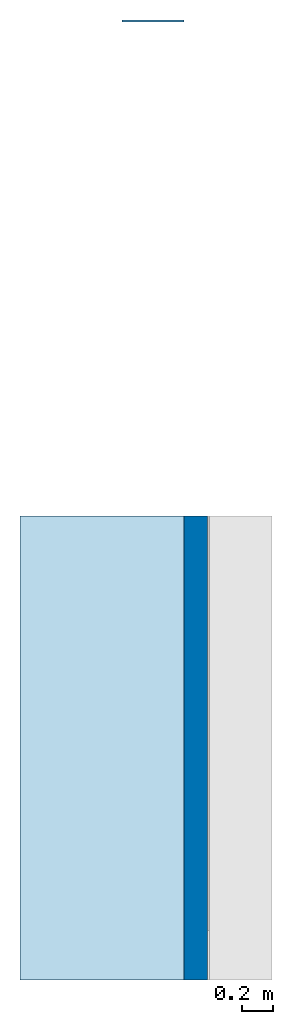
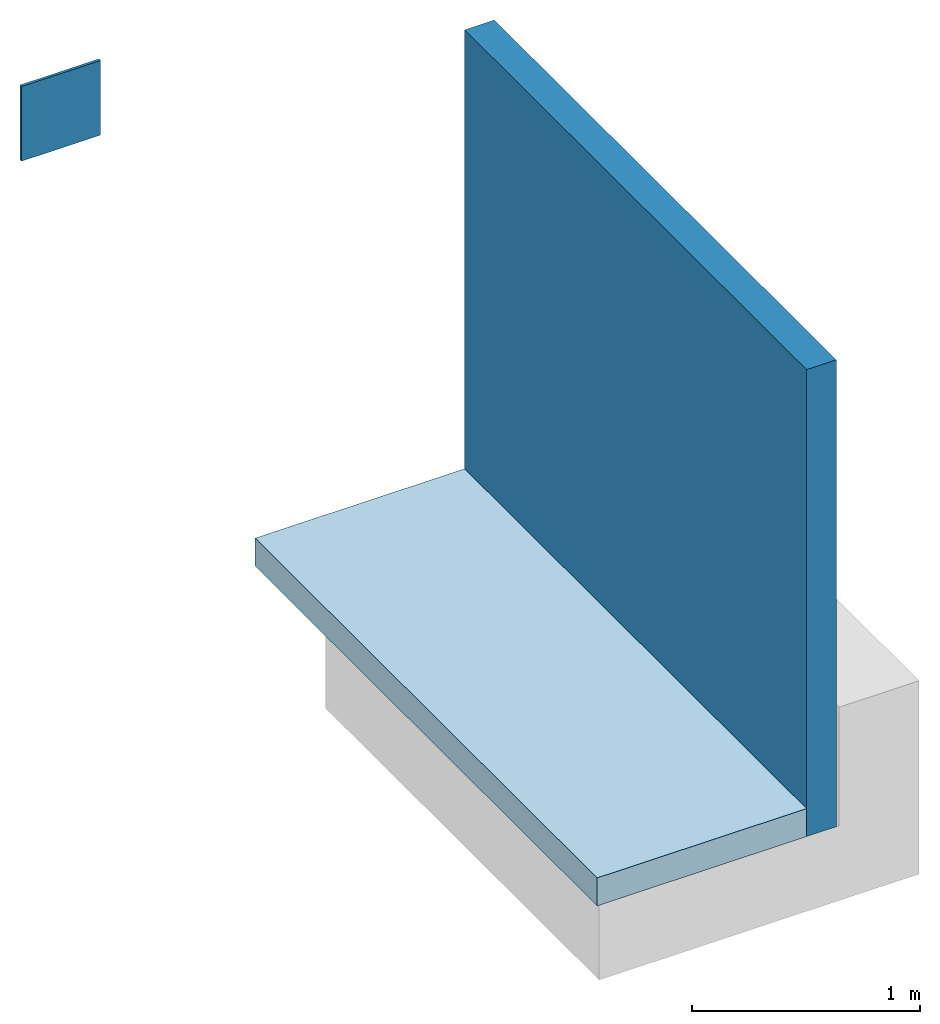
# One storey, part 1 of 2: 2 walls, 1 slab.
"""IFC2X3 building model written with IfcOpenShell, lengths in metres."""

from ifc_helpers import new_model, entity, si_unit, converted_unit, derived_unit, direction, frame, frame_2d, origin, place, context, subcontext, project, spatial, rectangle, extrude, material, layer, layer_set, layer_usage, type_object, element, save


model = new_model("IFC2X3")

# Units and contexts
model_context = context("Model", 3, precision=1e-05, world=origin(), true_north=direction((6.123031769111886e-17, 1.0)))
body_context = subcontext(model_context, "Body", "Model", "MODEL_VIEW")
ifc_project = project(units=[si_unit("LENGTHUNIT", "METRE"), si_unit("AREAUNIT", "SQUARE_METRE"), si_unit("VOLUMEUNIT", "CUBIC_METRE"), converted_unit("PLANEANGLEUNIT", "DEGREE", entity("IfcRatioMeasure", 0.017453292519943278), si_unit("PLANEANGLEUNIT", "RADIAN"), dimensions=[0, 0, 0, 0, 0, 0, 0]), si_unit("MASSUNIT", "GRAM", prefix="KILO"), derived_unit("MASSDENSITYUNIT", [(si_unit("MASSUNIT", "GRAM", prefix="KILO"), 1), (si_unit("LENGTHUNIT", "METRE"), -3)]), derived_unit("IONCONCENTRATIONUNIT", [(si_unit("MASSUNIT", "GRAM", prefix="KILO"), 1), (si_unit("LENGTHUNIT", "METRE"), -3)]), derived_unit("MOMENTOFINERTIAUNIT", [(si_unit("LENGTHUNIT", "METRE"), 4)]), si_unit("TIMEUNIT", "SECOND"), si_unit("FREQUENCYUNIT", "HERTZ"), si_unit("THERMODYNAMICTEMPERATUREUNIT", "DEGREE_CELSIUS"), derived_unit("THERMALTRANSMITTANCEUNIT", [(si_unit("MASSUNIT", "GRAM", prefix="KILO"), 1), (si_unit("THERMODYNAMICTEMPERATUREUNIT", "KELVIN"), -1), (si_unit("TIMEUNIT", "SECOND"), -3)]), derived_unit("THERMALCONDUCTANCEUNIT", [(si_unit("MASSUNIT", "GRAM", prefix="KILO"), 1), (si_unit("THERMODYNAMICTEMPERATUREUNIT", "KELVIN"), -1), (si_unit("TIMEUNIT", "SECOND"), -3), (si_unit("LENGTHUNIT", "METRE"), 1)]), derived_unit("VOLUMETRICFLOWRATEUNIT", [(si_unit("LENGTHUNIT", "METRE"), 3), (si_unit("TIMEUNIT", "SECOND"), -1)]), derived_unit("MASSFLOWRATEUNIT", [(si_unit("MASSUNIT", "GRAM", prefix="KILO"), 1), (si_unit("TIMEUNIT", "SECOND"), -1)]), derived_unit("ROTATIONALFREQUENCYUNIT", [(si_unit("TIMEUNIT", "SECOND"), -1)]), si_unit("ELECTRICCURRENTUNIT", "AMPERE"), si_unit("ELECTRICVOLTAGEUNIT", "VOLT"), si_unit("POWERUNIT", "WATT"), si_unit("FORCEUNIT", "NEWTON", prefix="KILO"), si_unit("ILLUMINANCEUNIT", "LUX"), si_unit("LUMINOUSFLUXUNIT", "LUMEN"), si_unit("LUMINOUSINTENSITYUNIT", "CANDELA"), derived_unit("USERDEFINED", [(si_unit("MASSUNIT", "GRAM", prefix="KILO"), -1), (si_unit("LENGTHUNIT", "METRE"), -2), (si_unit("TIMEUNIT", "SECOND"), 3), (si_unit("LUMINOUSFLUXUNIT", "LUMEN"), 1)]), derived_unit("USERDEFINED", [(si_unit("MASSUNIT", "GRAM", prefix="KILO"), 1), (si_unit("TIMEUNIT", "SECOND"), -3), (si_unit("LENGTHUNIT", "METRE"), 3), (si_unit("ELECTRICCURRENTUNIT", "AMPERE"), -2)]), derived_unit("SOUNDPOWERUNIT", [(si_unit("MASSUNIT", "GRAM", prefix="KILO"), 1), (si_unit("TIMEUNIT", "SECOND"), -3), (si_unit("LENGTHUNIT", "METRE"), 2)]), derived_unit("SOUNDPRESSUREUNIT", [(si_unit("MASSUNIT", "GRAM", prefix="KILO"), 1), (si_unit("LENGTHUNIT", "METRE"), -1), (si_unit("TIMEUNIT", "SECOND"), -2)]), derived_unit("LINEARVELOCITYUNIT", [(si_unit("LENGTHUNIT", "METRE"), 1), (si_unit("TIMEUNIT", "SECOND"), -1)]), si_unit("PRESSUREUNIT", "PASCAL"), derived_unit("USERDEFINED", [(si_unit("MASSUNIT", "GRAM", prefix="KILO"), 1), (si_unit("LENGTHUNIT", "METRE"), -2), (si_unit("TIMEUNIT", "SECOND"), -2)]), derived_unit("LINEARFORCEUNIT", [(si_unit("MASSUNIT", "GRAM", prefix="KILO"), 1), (si_unit("TIMEUNIT", "SECOND"), -2)]), derived_unit("PLANARFORCEUNIT", [(si_unit("MASSUNIT", "GRAM", prefix="KILO"), 1), (si_unit("LENGTHUNIT", "METRE"), -1), (si_unit("TIMEUNIT", "SECOND"), -2)]), derived_unit("SPECIFICHEATCAPACITYUNIT", [(si_unit("THERMODYNAMICTEMPERATUREUNIT", "KELVIN"), -1), (si_unit("LENGTHUNIT", "METRE"), 2), (si_unit("TIMEUNIT", "SECOND"), -2)]), derived_unit("HEATINGVALUEUNIT", [(si_unit("LENGTHUNIT", "METRE"), 2), (si_unit("TIMEUNIT", "SECOND"), -2)]), derived_unit("VAPORPERMEABILITYUNIT", [(si_unit("LENGTHUNIT", "METRE"), -1), (si_unit("TIMEUNIT", "SECOND"), 1)]), derived_unit("DYNAMICVISCOSITYUNIT", [(si_unit("MASSUNIT", "GRAM", prefix="KILO"), 1), (si_unit("TIMEUNIT", "SECOND"), -1), (si_unit("LENGTHUNIT", "METRE"), -1)]), derived_unit("THERMALEXPANSIONCOEFFICIENTUNIT", [(si_unit("THERMODYNAMICTEMPERATUREUNIT", "KELVIN"), -1)]), derived_unit("MODULUSOFELASTICITYUNIT", [(si_unit("MASSUNIT", "GRAM", prefix="KILO"), 1), (si_unit("LENGTHUNIT", "METRE"), -1), (si_unit("TIMEUNIT", "SECOND"), -2)]), derived_unit("ISOTHERMALMOISTURECAPACITYUNIT", [(si_unit("LENGTHUNIT", "METRE"), 3), (si_unit("MASSUNIT", "GRAM", prefix="KILO"), -1)]), derived_unit("MOISTUREDIFFUSIVITYUNIT", [(si_unit("TIMEUNIT", "SECOND"), -1), (si_unit("LENGTHUNIT", "METRE"), 2)])], contexts=[model_context])

# Site, building, storey
site_placement = place(None, origin())
site = spatial("IfcSite", under=ifc_project, at=site_placement, Name="Default", CompositionType="ELEMENT")
building_placement = place(site_placement, origin())
building = spatial("IfcBuilding", under=site, at=building_placement, CompositionType="ELEMENT")
storey_placement = place(building_placement, frame((0.0, 0.0, -0.0025237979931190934)))
storey = spatial("IfcBuildingStorey", under=building, at=storey_placement, Name="ARQ Térreo", CompositionType="ELEMENT", Elevation=-0.0025237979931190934)

# Slab
ifc_material_1 = material(Name="#concreto")
ifc_layer_1 = layer(ifc_material_1, 0.14999999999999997)
ifc_layer_set_1 = layer_set([ifc_layer_1], Name="Piso:Genérico 150 mm")
ifc_layer_usage_1 = layer_usage(ifc_layer_set_1, "AXIS3", "POSITIVE", 0.0)
slab_type = type_object("IfcSlabType", Name="Piso:Genérico 150 mm", PredefinedType="FLOOR", material=ifc_layer_set_1)
slab_placement = place(storey_placement, origin())
element("IfcSlab", 1, at=slab_placement, inside=storey, type_object=slab_type, material=ifc_layer_usage_1, Name="Piso:Genérico 150 mm", ObjectType="Piso:Genérico 150 mm", PredefinedType="FLOOR", context=body_context, shape_type="SweptSolid", body=[
    extrude(rectangle(XDim=3.0000000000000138, YDim=1.0608100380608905, at=frame_2d((0.0, -5.551115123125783e-17), x_axis=(1.0, 0.0))), frame((-1.0323754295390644, -1.3541299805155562, 0.14999999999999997), z_axis=(0.0, 0.0, -1.0), x_axis=(0.0, 1.0, 0.0)), (0.0, 0.0, 1.0), 0.14999999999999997),
])

# Walls
ifc_layer_2 = layer(ifc_material_1, 0.14999999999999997)
ifc_layer_set_2 = layer_set([ifc_layer_2], Name="Parede básica:Parede básica:Parede Concreto")
ifc_layer_usage_2 = layer_usage(ifc_layer_set_2, "AXIS2", "NEGATIVE", 0.07499999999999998)
wall_type_1 = type_object("IfcWallType", Name="Parede básica:Parede básica:Parede Concreto", PredefinedType="STANDARD", material=ifc_layer_set_2)
wall_1_placement = place(storey_placement, frame((-0.4269704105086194, 0.14587001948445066, 0.0), z_axis=(0.0, 0.0, 1.0), x_axis=(0.0, -1.0, 0.0)))
element("IfcWallStandardCase", 2, at=wall_1_placement, inside=storey, type_object=wall_type_1, material=ifc_layer_usage_2, Name="Parede básica:Parede Concreto", ObjectType="Parede básica:Parede Concreto", context=body_context, shape_type="SweptSolid", body=[
    extrude(rectangle(XDim=2.9999999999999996, YDim=0.15000000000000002, at=frame_2d((1.4999999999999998, 0.0), x_axis=(-1.0, 0.0))), origin(), (0.0, 0.0, 1.0), 2.4999999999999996),
])
ifc_material_2 = material(Name="#Geotextil")
ifc_layer_3 = layer(ifc_material_2, 0.003)
ifc_material_3 = material(Name="#Vitkote Elastic")
ifc_layer_4 = layer(ifc_material_3, 0.0009999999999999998)
ifc_material_4 = material(Name="#argamassa")
ifc_layer_5 = layer(ifc_material_4, 0.01)
ifc_layer_set_3 = layer_set([ifc_layer_3, ifc_layer_4, ifc_layer_5], Name="Parede básica:IMPV_VITKOTE")
ifc_layer_usage_3 = layer_usage(ifc_layer_set_3, "AXIS2", "NEGATIVE", 0.007)
wall_type_2 = type_object("IfcWallType", Name="Parede básica:IMPV_VITKOTE", PredefinedType="STANDARD", material=ifc_layer_set_3)
wall_2_placement = place(storey_placement, frame((-0.5019704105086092, 3.345870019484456, 0.0), z_axis=(0.0, 0.0, 1.0), x_axis=(-1.0, 0.0, 0.0)))
element("IfcWallStandardCase", 3, at=wall_2_placement, inside=storey, type_object=wall_type_2, material=ifc_layer_usage_3, Name="Parede básica:IMPV_VP7000", ObjectType="Parede básica:IMPV_VP7000", context=body_context, shape_type="SweptSolid", body=[
    extrude(rectangle(XDim=0.4000000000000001, YDim=0.014000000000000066, at=frame_2d((0.20000000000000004, -2.168404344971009e-17), x_axis=(-1.0, 0.0))), origin(), (0.0, 0.0, 1.0), 0.4),
])

save(model, "model.ifc")
